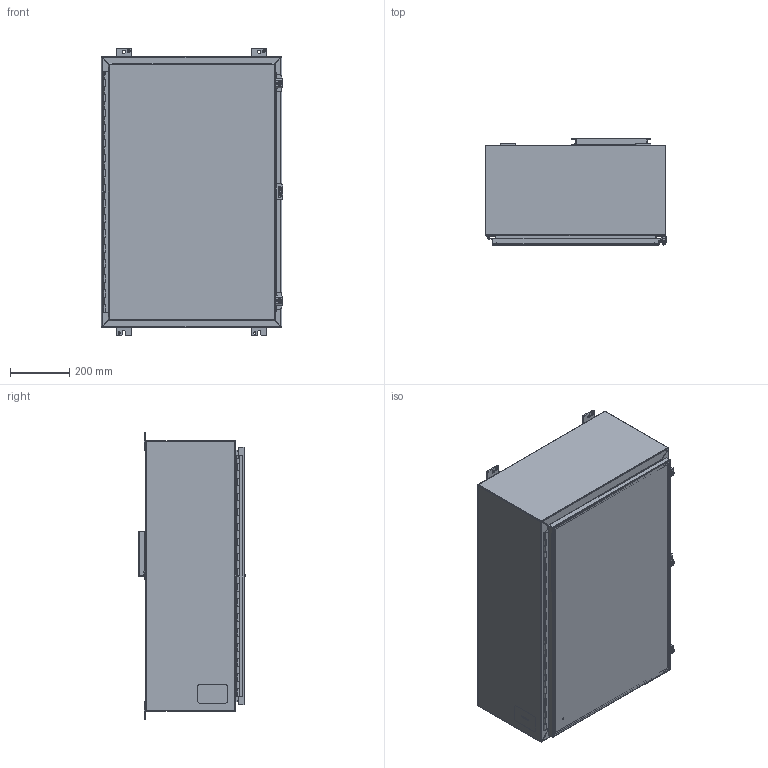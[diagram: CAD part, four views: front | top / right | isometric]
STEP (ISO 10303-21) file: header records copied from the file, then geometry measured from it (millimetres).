
FILE_DESCRIPTION(/* description */ ('Unknown'),/* implementation_level */ '2;1');
FILE_NAME(/* name */ '1418L12LP',/* time_stamp */ '2026-02-20T16:33:55-05:00',/* author */ ('Unknown'),/* organization */ ('Unknown'),/* preprocessor_version */ 'ST-DEVELOPER v18.104',/* originating_system */ 'Solid Edge',/* authorisation */ 'Unknown');
FILE_SCHEMA (('AUTOMOTIVE_DESIGN {1 0 10303 214 3 1 1}'));
Length unit declared in the file: millimetre
Products named in the file (31): 1418L12LP; KIT90256; LAB30005; NTS165305; NTS16535; STD26094; HNG10620-32B; STD21878; COM42780; HNG10620-32P; COM40153-1; KIT90519; WAF25059; NTS166105; COM71780-20; COM40153-2; PNT11078; HNG10620-32C; COM70219_oa_0; COM48460; FET07710; AKT90223; SPR20265; SCC19011; WAF25035; COM42667; BUL10020; QLB30109; PKT99; COM48509
Assembly tree (43 placements, depth 3):
  1418L12LP
    KIT90256
      LAB30005
      NTS165305
      NTS16535
    STD26094  x6
    HNG10620-32B
    STD21878
    COM42780  x2
    HNG10620-32P
    COM40153-1
    KIT90519
      WAF25059
      NTS166105
    COM71780-20
      COM40153-2
      COM71780-20
      STD21878
      PNT11078
      HNG10620-32C
      COM70219_oa_0
    COM48460
    FET07710  x4
    AKT90223  x2
      SPR20265
      SCC19011
      WAF25035
      COM42667
    BUL10020
    QLB30109
    PKT99
    COM48509  x2
    PNT11078
Bounding box: 612.77 x 358.77 x 971.55 mm (x, y, z)
Volume: 4474398.5 mm3; surface area: 4837530.6 mm2
Topology: 38 solids, 39 shells, 1271 faces, 3285 edges, 2130 vertices
Faces by surface type: plane 826, cylinder 332, bspline 57, cone 28, torus 26, sphere 2
Full cylindrical faces by diameter (mm): 3.175 x1, 4.763 x1, 4.976 x1, 5.41 x2, 6.198 x2, 6.35 x3, 6.731 x2, 7.137 x2, 7.805 x1, 7.938 x4, 8.382 x6, 9.525 x6, 9.906 x2, 11.113 x4, 11.303 x1, 12.7 x2, 16.51 x6, 25.4 x1, 88.9 x1
Entity records: 30940 total; most frequent: CARTESIAN_POINT 8188, ORIENTED_EDGE 4580, DIRECTION 4319, EDGE_CURVE 2290, LINE 1547, VECTOR 1547, VERTEX_POINT 1501, AXIS2_PLACEMENT_3D 1386
